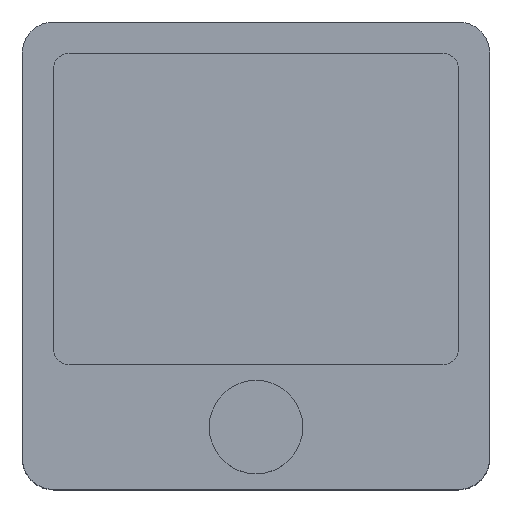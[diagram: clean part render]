
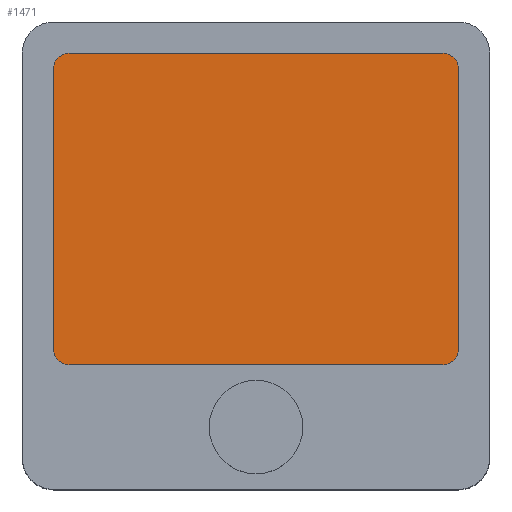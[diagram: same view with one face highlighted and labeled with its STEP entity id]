
A CAD part, top view. The second image highlights one B-rep face of the part: STEP entity #1471.
In plain terms, the highlighted planar face has unit normal (0, 0, 1).
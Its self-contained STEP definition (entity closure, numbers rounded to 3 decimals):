
#88=PLANE('',#1658);
#184=FACE_OUTER_BOUND('',#275,.T.);
#275=EDGE_LOOP('',(#1119,#1120,#1121,#1122,#1123,#1124,#1125,#1126));
#385=LINE('',#2377,#492);
#389=LINE('',#2389,#496);
#393=LINE('',#2401,#500);
#396=LINE('',#2410,#503);
#492=VECTOR('',#1903,10.);
#496=VECTOR('',#1915,10.);
#500=VECTOR('',#1927,10.);
#503=VECTOR('',#1938,10.);
#587=CIRCLE('',#1644,1.);
#589=CIRCLE('',#1648,1.);
#591=CIRCLE('',#1652,1.);
#593=CIRCLE('',#1656,1.);
#692=VERTEX_POINT('',#2367);
#693=VERTEX_POINT('',#2369);
#695=VERTEX_POINT('',#2375);
#697=VERTEX_POINT('',#2381);
#699=VERTEX_POINT('',#2387);
#701=VERTEX_POINT('',#2393);
#703=VERTEX_POINT('',#2399);
#705=VERTEX_POINT('',#2405);
#849=EDGE_CURVE('',#692,#693,#587,.T.);
#853=EDGE_CURVE('',#695,#692,#385,.T.);
#856=EDGE_CURVE('',#697,#695,#589,.T.);
#859=EDGE_CURVE('',#699,#697,#389,.T.);
#862=EDGE_CURVE('',#701,#699,#591,.T.);
#865=EDGE_CURVE('',#703,#701,#393,.T.);
#868=EDGE_CURVE('',#705,#703,#593,.T.);
#870=EDGE_CURVE('',#693,#705,#396,.T.);
#1119=ORIENTED_EDGE('',*,*,#870,.F.);
#1120=ORIENTED_EDGE('',*,*,#849,.F.);
#1121=ORIENTED_EDGE('',*,*,#853,.F.);
#1122=ORIENTED_EDGE('',*,*,#856,.F.);
#1123=ORIENTED_EDGE('',*,*,#859,.F.);
#1124=ORIENTED_EDGE('',*,*,#862,.F.);
#1125=ORIENTED_EDGE('',*,*,#865,.F.);
#1126=ORIENTED_EDGE('',*,*,#868,.F.);
#1471=ADVANCED_FACE('',(#184),#88,.T.);
#1644=AXIS2_PLACEMENT_3D('',#2370,#1896,#1897);
#1648=AXIS2_PLACEMENT_3D('',#2383,#1909,#1910);
#1652=AXIS2_PLACEMENT_3D('',#2395,#1921,#1922);
#1656=AXIS2_PLACEMENT_3D('',#2407,#1933,#1934);
#1658=AXIS2_PLACEMENT_3D('',#2411,#1939,#1940);
#1896=DIRECTION('center_axis',(0.,0.,-1.));
#1897=DIRECTION('ref_axis',(0.,-1.,0.));
#1903=DIRECTION('',(0.,1.,0.));
#1909=DIRECTION('center_axis',(0.,0.,-1.));
#1910=DIRECTION('ref_axis',(1.,0.,0.));
#1915=DIRECTION('',(-1.,0.,0.));
#1921=DIRECTION('center_axis',(0.,0.,-1.));
#1922=DIRECTION('ref_axis',(0.,1.,0.));
#1927=DIRECTION('',(0.,-1.,0.));
#1933=DIRECTION('center_axis',(0.,0.,-1.));
#1934=DIRECTION('ref_axis',(-1.,0.,0.));
#1938=DIRECTION('',(1.,0.,0.));
#1939=DIRECTION('center_axis',(0.,0.,1.));
#1940=DIRECTION('ref_axis',(1.,0.,0.));
#2367=CARTESIAN_POINT('',(-13.,12.,10.4));
#2369=CARTESIAN_POINT('',(-12.,13.,10.4));
#2370=CARTESIAN_POINT('Origin',(-12.,12.,10.4));
#2375=CARTESIAN_POINT('',(-13.,-6.,10.4));
#2377=CARTESIAN_POINT('',(-13.,-6.,10.4));
#2381=CARTESIAN_POINT('',(-12.,-7.,10.4));
#2383=CARTESIAN_POINT('Origin',(-12.,-6.,10.4));
#2387=CARTESIAN_POINT('',(12.,-7.,10.4));
#2389=CARTESIAN_POINT('',(12.,-7.,10.4));
#2393=CARTESIAN_POINT('',(13.,-6.,10.4));
#2395=CARTESIAN_POINT('Origin',(12.,-6.,10.4));
#2399=CARTESIAN_POINT('',(13.,12.,10.4));
#2401=CARTESIAN_POINT('',(13.,12.,10.4));
#2405=CARTESIAN_POINT('',(12.,13.,10.4));
#2407=CARTESIAN_POINT('Origin',(12.,12.,10.4));
#2410=CARTESIAN_POINT('',(-12.,13.,10.4));
#2411=CARTESIAN_POINT('Origin',(0.,3.,10.4));
